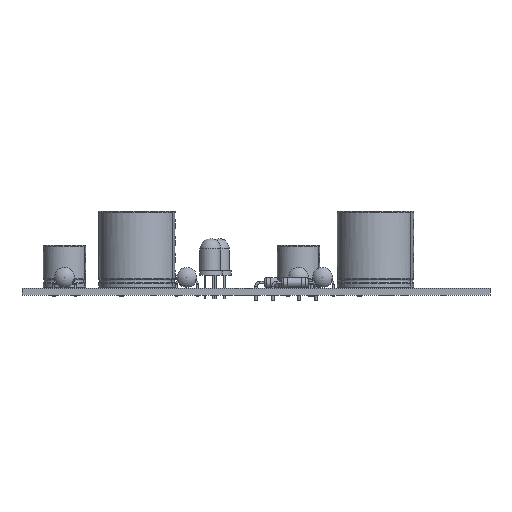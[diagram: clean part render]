
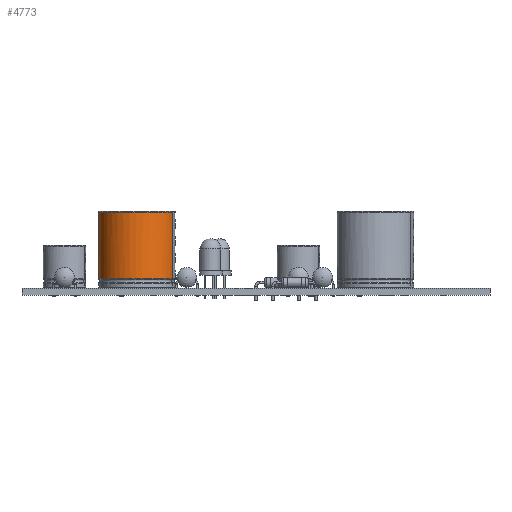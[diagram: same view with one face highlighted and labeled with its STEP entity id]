
A CAD part, front view. The second image highlights one B-rep face of the part: STEP entity #4773.
In plain terms, the highlighted cylindrical face has radius 9 mm (diameter 18 mm), a partial arc.
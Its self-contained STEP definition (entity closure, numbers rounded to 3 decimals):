
#4420 = VERTEX_POINT('',#4421);
#4421 = CARTESIAN_POINT('',(12.065,-3.444,
    2.135));
#4432 = EDGE_CURVE('',#4420,#4433,#4435,.T.);
#4433 = VERTEX_POINT('',#4434);
#4434 = CARTESIAN_POINT('',(12.065,3.444,
    2.135));
#4435 = B_SPLINE_CURVE_WITH_KNOTS('',12,(#4436,#4437,#4438,#4439,#4440,
    #4441,#4442,#4443,#4444,#4445,#4446,#4447,#4448,#4449,#4450,#4451,
    #4452,#4453,#4454,#4455,#4456,#4457,#4458,#4459,#4460,#4461,#4462,
    #4463,#4464,#4465,#4466,#4467,#4468,#4469,#4470),.UNSPECIFIED.,.F.,
  .F.,(13,11,11,13),(-2.108,0.,49.48,
    51.588),.UNSPECIFIED.);
#4436 = CARTESIAN_POINT('',(12.872,-1.496,
    2.135));
#4437 = CARTESIAN_POINT('',(12.804,-1.66,
    2.135));
#4438 = CARTESIAN_POINT('',(12.736,-1.823,
    2.135));
#4439 = CARTESIAN_POINT('',(12.669,-1.986,
    2.135));
#4440 = CARTESIAN_POINT('',(12.601,-2.149,
    2.135));
#4441 = CARTESIAN_POINT('',(12.534,-2.312,
    2.135));
#4442 = CARTESIAN_POINT('',(12.467,-2.474,
    2.135));
#4443 = CARTESIAN_POINT('',(12.4,-2.636,
    2.135));
#4444 = CARTESIAN_POINT('',(12.332,-2.798,
    2.135));
#4445 = CARTESIAN_POINT('',(12.265,-2.96,
    2.135));
#4446 = CARTESIAN_POINT('',(12.199,-3.122,
    2.135));
#4447 = CARTESIAN_POINT('',(12.132,-3.283,
    2.135));
#4448 = CARTESIAN_POINT('',(10.498,-7.227,
    2.135));
#4449 = CARTESIAN_POINT('',(7.028,-10.29,
    2.135));
#4450 = CARTESIAN_POINT('',(2.02,-11.504,
    2.135));
#4451 = CARTESIAN_POINT('',(-3.35,-9.925,
    2.135));
#4452 = CARTESIAN_POINT('',(-7.348,-5.986,
    2.135));
#4453 = CARTESIAN_POINT('',(-9.352,0.,
    2.135));
#4454 = CARTESIAN_POINT('',(-7.348,5.986,
    2.135));
#4455 = CARTESIAN_POINT('',(-3.35,9.925,
    2.135));
#4456 = CARTESIAN_POINT('',(2.02,11.504,2.135)
  );
#4457 = CARTESIAN_POINT('',(7.028,10.29,
    2.135));
#4458 = CARTESIAN_POINT('',(10.498,7.227,
    2.135));
#4459 = CARTESIAN_POINT('',(12.132,3.283,
    2.135));
#4460 = CARTESIAN_POINT('',(12.199,3.122,
    2.135));
#4461 = CARTESIAN_POINT('',(12.265,2.96,
    2.135));
#4462 = CARTESIAN_POINT('',(12.332,2.798,2.135
    ));
#4463 = CARTESIAN_POINT('',(12.4,2.636,
    2.135));
#4464 = CARTESIAN_POINT('',(12.467,2.474,2.135
    ));
#4465 = CARTESIAN_POINT('',(12.534,2.312,
    2.135));
#4466 = CARTESIAN_POINT('',(12.601,2.149,2.135
    ));
#4467 = CARTESIAN_POINT('',(12.669,1.986,
    2.135));
#4468 = CARTESIAN_POINT('',(12.736,1.823,
    2.135));
#4469 = CARTESIAN_POINT('',(12.804,1.66,2.135
    ));
#4470 = CARTESIAN_POINT('',(12.872,1.496,
    2.135));
#4773 = ADVANCED_FACE('',(#4774),#4800,.T.);
#4774 = FACE_BOUND('',#4775,.T.);
#4775 = EDGE_LOOP('',(#4776,#4787,#4793,#4794));
#4776 = ORIENTED_EDGE('',*,*,#4777,.T.);
#4777 = EDGE_CURVE('',#4778,#4780,#4782,.T.);
#4778 = VERTEX_POINT('',#4779);
#4779 = CARTESIAN_POINT('',(12.065,-3.444,17.8));
#4780 = VERTEX_POINT('',#4781);
#4781 = CARTESIAN_POINT('',(12.065,3.444,17.8));
#4782 = CIRCLE('',#4783,9.);
#4783 = AXIS2_PLACEMENT_3D('',#4784,#4785,#4786);
#4784 = CARTESIAN_POINT('',(3.75,0.,17.8));
#4785 = DIRECTION('',(0.,-0.,-1.));
#4786 = DIRECTION('',(0.924,-0.383,0.));
#4787 = ORIENTED_EDGE('',*,*,#4788,.F.);
#4788 = EDGE_CURVE('',#4433,#4780,#4789,.T.);
#4789 = LINE('',#4790,#4791);
#4790 = CARTESIAN_POINT('',(12.065,3.444,2.));
#4791 = VECTOR('',#4792,1.);
#4792 = DIRECTION('',(0.,0.,1.));
#4793 = ORIENTED_EDGE('',*,*,#4432,.F.);
#4794 = ORIENTED_EDGE('',*,*,#4795,.T.);
#4795 = EDGE_CURVE('',#4420,#4778,#4796,.T.);
#4796 = LINE('',#4797,#4798);
#4797 = CARTESIAN_POINT('',(12.065,-3.444,2.));
#4798 = VECTOR('',#4799,1.);
#4799 = DIRECTION('',(0.,0.,1.));
#4800 = CYLINDRICAL_SURFACE('',#4801,9.);
#4801 = AXIS2_PLACEMENT_3D('',#4802,#4803,#4804);
#4802 = CARTESIAN_POINT('',(3.75,0.,2.));
#4803 = DIRECTION('',(0.,0.,1.));
#4804 = DIRECTION('',(0.924,-0.383,0.));
